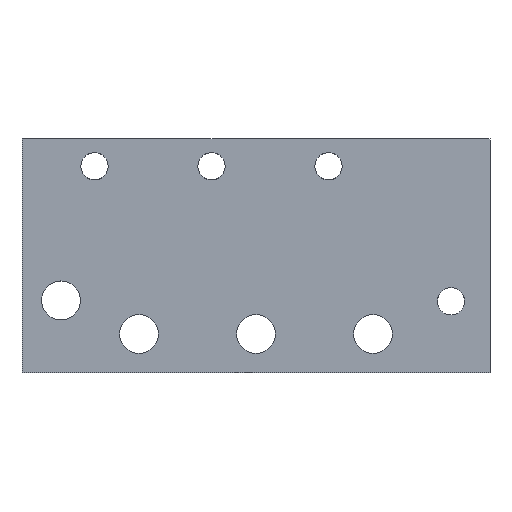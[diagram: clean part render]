
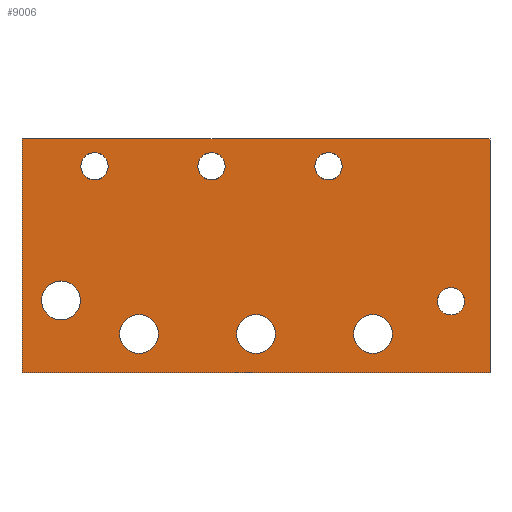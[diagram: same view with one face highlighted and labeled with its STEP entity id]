
A CAD part, front view. The second image highlights one B-rep face of the part: STEP entity #9006.
In plain terms, the highlighted planar face has unit normal (0, -1, 0).
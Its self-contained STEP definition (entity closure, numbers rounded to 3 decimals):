
#21=FACE_BOUND('',#1221,.T.);
#22=FACE_BOUND('',#1222,.T.);
#23=FACE_BOUND('',#1223,.T.);
#24=FACE_BOUND('',#1224,.T.);
#25=FACE_BOUND('',#1225,.T.);
#26=FACE_BOUND('',#1226,.T.);
#27=FACE_BOUND('',#1227,.T.);
#28=FACE_BOUND('',#1228,.T.);
#330=PLANE('',#9768);
#772=FACE_OUTER_BOUND('',#1220,.T.);
#1220=EDGE_LOOP('',(#8413,#8414,#8415,#8416));
#1221=EDGE_LOOP('',(#8417));
#1222=EDGE_LOOP('',(#8418));
#1223=EDGE_LOOP('',(#8419));
#1224=EDGE_LOOP('',(#8420));
#1225=EDGE_LOOP('',(#8421));
#1226=EDGE_LOOP('',(#8422));
#1227=EDGE_LOOP('',(#8423));
#1228=EDGE_LOOP('',(#8424));
#1231=CIRCLE('',#9024,1.75);
#1238=CIRCLE('',#9032,1.75);
#1245=CIRCLE('',#9040,1.75);
#1248=CIRCLE('',#9044,1.75);
#1531=CIRCLE('',#9722,2.5);
#1532=CIRCLE('',#9724,2.5);
#1533=CIRCLE('',#9726,2.5);
#1534=CIRCLE('',#9731,2.5);
#2228=LINE('',#14243,#3246);
#2479=LINE('',#14779,#3497);
#2550=LINE('',#14928,#3568);
#2552=LINE('',#14931,#3570);
#3246=VECTOR('',#11586,10.);
#3497=VECTOR('',#12133,10.);
#3568=VECTOR('',#12276,10.);
#3570=VECTOR('',#12280,10.);
#3576=VERTEX_POINT('',#12296);
#3588=VERTEX_POINT('',#12322);
#3600=VERTEX_POINT('',#12348);
#3604=VERTEX_POINT('',#12358);
#4272=VERTEX_POINT('',#14240);
#4273=VERTEX_POINT('',#14242);
#4406=VERTEX_POINT('',#14760);
#4407=VERTEX_POINT('',#14764);
#4408=VERTEX_POINT('',#14768);
#4410=VERTEX_POINT('',#14778);
#4411=VERTEX_POINT('',#14782);
#4452=VERTEX_POINT('',#14927);
#4458=EDGE_CURVE('',#3576,#3576,#1231,.T.);
#4471=EDGE_CURVE('',#3588,#3588,#1238,.T.);
#4484=EDGE_CURVE('',#3600,#3600,#1245,.T.);
#4489=EDGE_CURVE('',#3604,#3604,#1248,.T.);
#5435=EDGE_CURVE('',#4273,#4272,#2228,.T.);
#5694=EDGE_CURVE('',#4406,#4406,#1531,.T.);
#5696=EDGE_CURVE('',#4407,#4407,#1532,.T.);
#5698=EDGE_CURVE('',#4408,#4408,#1533,.T.);
#5702=EDGE_CURVE('',#4410,#4273,#2479,.T.);
#5705=EDGE_CURVE('',#4411,#4411,#1534,.T.);
#5774=EDGE_CURVE('',#4452,#4410,#2550,.T.);
#5776=EDGE_CURVE('',#4272,#4452,#2552,.T.);
#8413=ORIENTED_EDGE('',*,*,#5776,.T.);
#8414=ORIENTED_EDGE('',*,*,#5774,.T.);
#8415=ORIENTED_EDGE('',*,*,#5702,.T.);
#8416=ORIENTED_EDGE('',*,*,#5435,.T.);
#8417=ORIENTED_EDGE('',*,*,#4458,.T.);
#8418=ORIENTED_EDGE('',*,*,#4471,.T.);
#8419=ORIENTED_EDGE('',*,*,#4484,.T.);
#8420=ORIENTED_EDGE('',*,*,#4489,.T.);
#8421=ORIENTED_EDGE('',*,*,#5694,.T.);
#8422=ORIENTED_EDGE('',*,*,#5698,.T.);
#8423=ORIENTED_EDGE('',*,*,#5696,.T.);
#8424=ORIENTED_EDGE('',*,*,#5705,.T.);
#9006=ADVANCED_FACE('',(#772,#21,#22,#23,#24,#25,#26,#27,#28),#330,.T.);
#9024=AXIS2_PLACEMENT_3D('',#12298,#9780,#9781);
#9032=AXIS2_PLACEMENT_3D('',#12324,#9802,#9803);
#9040=AXIS2_PLACEMENT_3D('',#12350,#9824,#9825);
#9044=AXIS2_PLACEMENT_3D('',#12360,#9834,#9835);
#9722=AXIS2_PLACEMENT_3D('',#14762,#12112,#12113);
#9724=AXIS2_PLACEMENT_3D('',#14766,#12117,#12118);
#9726=AXIS2_PLACEMENT_3D('',#14770,#12122,#12123);
#9731=AXIS2_PLACEMENT_3D('',#14784,#12138,#12139);
#9768=AXIS2_PLACEMENT_3D('',#14933,#12283,#12284);
#9780=DIRECTION('center_axis',(0.,1.,0.));
#9781=DIRECTION('ref_axis',(-1.,0.,0.));
#9802=DIRECTION('center_axis',(0.,1.,0.));
#9803=DIRECTION('ref_axis',(-1.,0.,0.));
#9824=DIRECTION('center_axis',(0.,1.,0.));
#9825=DIRECTION('ref_axis',(-1.,0.,0.));
#9834=DIRECTION('center_axis',(0.,1.,0.));
#9835=DIRECTION('ref_axis',(-1.,0.,0.));
#11586=DIRECTION('',(-1.,0.,0.));
#12112=DIRECTION('center_axis',(0.,1.,0.));
#12113=DIRECTION('ref_axis',(-1.,0.,0.));
#12117=DIRECTION('center_axis',(0.,1.,0.));
#12118=DIRECTION('ref_axis',(-1.,0.,0.));
#12122=DIRECTION('center_axis',(0.,1.,0.));
#12123=DIRECTION('ref_axis',(-1.,0.,0.));
#12133=DIRECTION('',(0.,0.,1.));
#12138=DIRECTION('center_axis',(0.,1.,0.));
#12139=DIRECTION('ref_axis',(-1.,0.,0.));
#12276=DIRECTION('',(1.,0.,0.));
#12280=DIRECTION('',(0.,0.,-1.));
#12283=DIRECTION('center_axis',(0.,-1.,0.));
#12284=DIRECTION('ref_axis',(0.,0.,-1.));
#12296=CARTESIAN_POINT('',(26.05,-4.,-3.5));
#12298=CARTESIAN_POINT('Origin',(24.3,-4.,-3.5));
#12322=CARTESIAN_POINT('',(41.05,-4.,-3.5));
#12324=CARTESIAN_POINT('Origin',(39.3,-4.,-3.5));
#12348=CARTESIAN_POINT('',(11.05,-4.,-3.5));
#12350=CARTESIAN_POINT('Origin',(9.3,-4.,-3.5));
#12358=CARTESIAN_POINT('',(56.75,-4.,-20.8));
#12360=CARTESIAN_POINT('Origin',(55.,-4.,-20.8));
#14240=CARTESIAN_POINT('',(0.,-4.,0.));
#14242=CARTESIAN_POINT('',(60.,-4.,0.));
#14243=CARTESIAN_POINT('',(0.,-4.,0.));
#14760=CARTESIAN_POINT('',(32.5,-4.,-25.));
#14762=CARTESIAN_POINT('Origin',(30.,-4.,-25.));
#14764=CARTESIAN_POINT('',(47.5,-4.,-25.));
#14766=CARTESIAN_POINT('Origin',(45.,-4.,-25.));
#14768=CARTESIAN_POINT('',(17.5,-4.,-25.));
#14770=CARTESIAN_POINT('Origin',(15.,-4.,-25.));
#14778=CARTESIAN_POINT('',(60.,-4.,-30.));
#14779=CARTESIAN_POINT('',(60.,-4.,0.));
#14782=CARTESIAN_POINT('',(7.5,-4.,-20.7));
#14784=CARTESIAN_POINT('Origin',(5.,-4.,-20.7));
#14927=CARTESIAN_POINT('',(0.,-4.,-30.));
#14928=CARTESIAN_POINT('',(60.,-4.,-30.));
#14931=CARTESIAN_POINT('',(0.,-4.,-30.));
#14933=CARTESIAN_POINT('Origin',(30.,-4.,-15.));
